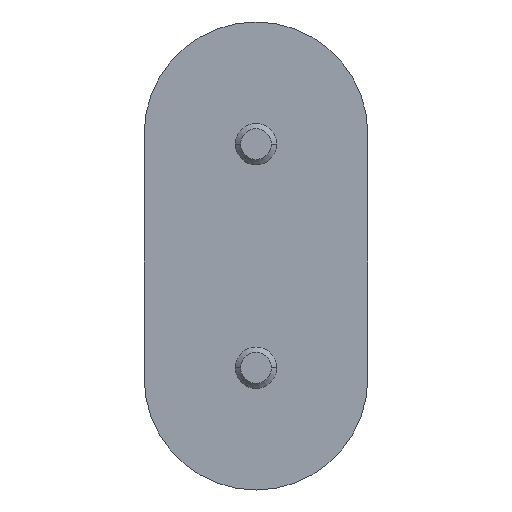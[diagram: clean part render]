
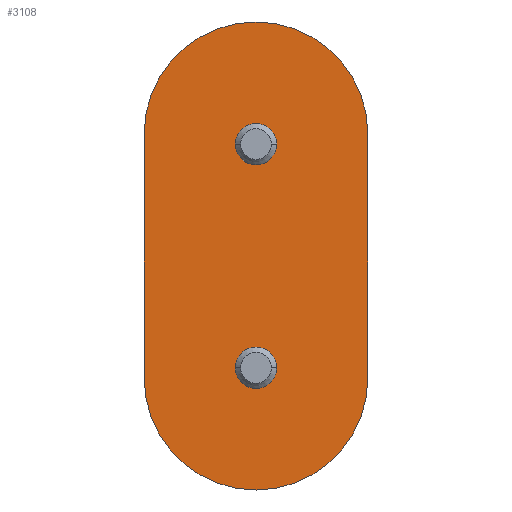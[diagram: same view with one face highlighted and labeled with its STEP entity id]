
A CAD part, top view. The second image highlights one B-rep face of the part: STEP entity #3108.
In plain terms, the highlighted planar face has unit normal (0, 0, 1).
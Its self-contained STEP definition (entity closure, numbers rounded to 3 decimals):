
#45 = VERTEX_POINT ( 'NONE', #1772 ) ;
#47 = VERTEX_POINT ( 'NONE', #1774 ) ;
#175 = VERTEX_POINT ( 'NONE', #2148 ) ;
#179 = VERTEX_POINT ( 'NONE', #2152 ) ;
#243 = CARTESIAN_POINT ( 'NONE',  ( 1.2, -6.5, 0. ) ) ;
#244 = CARTESIAN_POINT ( 'NONE',  ( -1.2, -6.5, 0. ) ) ;
#248 = CARTESIAN_POINT ( 'NONE',  ( -1.2, 6.5, 0. ) ) ;
#249 = CARTESIAN_POINT ( 'NONE',  ( 1.2, 6.5, 0. ) ) ;
#276 = ORIENTED_EDGE ( 'NONE', *, *, #3078, .T. ) ;
#277 = ORIENTED_EDGE ( 'NONE', *, *, #2564, .T. ) ;
#278 = ORIENTED_EDGE ( 'NONE', *, *, #2366, .F. ) ;
#280 = ORIENTED_EDGE ( 'NONE', *, *, #2526, .F. ) ;
#308 = ORIENTED_EDGE ( 'NONE', *, *, #2556, .F. ) ;
#309 = ORIENTED_EDGE ( 'NONE', *, *, #3076, .T. ) ;
#310 = ORIENTED_EDGE ( 'NONE', *, *, #2567, .T. ) ;
#311 = ORIENTED_EDGE ( 'NONE', *, *, #2527, .F. ) ;
#1110 = VERTEX_POINT ( 'NONE', #243 ) ;
#1111 = VERTEX_POINT ( 'NONE', #244 ) ;
#1115 = VERTEX_POINT ( 'NONE', #248 ) ;
#1116 = VERTEX_POINT ( 'NONE', #249 ) ;
#1423 = EDGE_LOOP ( 'NONE', ( #311, #308 ) ) ;
#1427 = EDGE_LOOP ( 'NONE', ( #280, #278 ) ) ;
#1433 = EDGE_LOOP ( 'NONE', ( #277, #276, #309, #310 ) ) ;
#1521 = CIRCLE ( 'NONE', #2384, 1.2 ) ;
#1609 = VECTOR ( 'NONE', #2737, 1000. ) ;
#1610 = LINE ( 'NONE', #2736, #1609 ) ;
#1614 = CIRCLE ( 'NONE', #2398, 6.5 ) ;
#1632 = CIRCLE ( 'NONE', #2395, 1.2 ) ;
#1678 = CIRCLE ( 'NONE', #2385, 1.2 ) ;
#1713 = CIRCLE ( 'NONE', #2382, 1.2 ) ;
#1772 = CARTESIAN_POINT ( 'NONE',  ( -6.5, 7.1, 0. ) ) ;
#1774 = CARTESIAN_POINT ( 'NONE',  ( 6.5, 7.1, 0. ) ) ;
#1962 = CARTESIAN_POINT ( 'NONE',  ( 0., -6.5, 0. ) ) ;
#1963 = DIRECTION ( 'NONE',  ( 0., 0., 1. ) ) ;
#1964 = DIRECTION ( 'NONE',  ( 1., 0., 0. ) ) ;
#1986 = CARTESIAN_POINT ( 'NONE',  ( 0., -6.5, 0. ) ) ;
#1987 = DIRECTION ( 'NONE',  ( 0., 0., 1. ) ) ;
#1988 = DIRECTION ( 'NONE',  ( 1., 0., 0. ) ) ;
#1989 = CARTESIAN_POINT ( 'NONE',  ( 0., 6.5, 0. ) ) ;
#1990 = DIRECTION ( 'NONE',  ( 0., 0., 1. ) ) ;
#1991 = DIRECTION ( 'NONE',  ( 1., 0., 0. ) ) ;
#2148 = CARTESIAN_POINT ( 'NONE',  ( 6.5, -7.1, 0. ) ) ;
#2152 = CARTESIAN_POINT ( 'NONE',  ( -6.5, -7.1, 0. ) ) ;
#2366 = EDGE_CURVE ( 'NONE', #1110, #1111, #1713, .T. ) ;
#2382 = AXIS2_PLACEMENT_3D ( 'NONE', #1962, #1963, #1964 ) ;
#2384 = AXIS2_PLACEMENT_3D ( 'NONE', #1986, #1987, #1988 ) ;
#2385 = AXIS2_PLACEMENT_3D ( 'NONE', #1989, #1990, #1991 ) ;
#2395 = AXIS2_PLACEMENT_3D ( 'NONE', #2710, #2711, #2712 ) ;
#2398 = AXIS2_PLACEMENT_3D ( 'NONE', #2729, #2730, #2731 ) ;
#2416 = AXIS2_PLACEMENT_3D ( 'NONE', #3167, #3168, #3169 ) ;
#2444 = AXIS2_PLACEMENT_3D ( 'NONE', #3273, #3274, #3275 ) ;
#2526 = EDGE_CURVE ( 'NONE', #1111, #1110, #1521, .T. ) ;
#2527 = EDGE_CURVE ( 'NONE', #1115, #1116, #1678, .T. ) ;
#2556 = EDGE_CURVE ( 'NONE', #1116, #1115, #1632, .T. ) ;
#2564 = EDGE_CURVE ( 'NONE', #47, #45, #1614, .T. ) ;
#2567 = EDGE_CURVE ( 'NONE', #175, #47, #1610, .T. ) ;
#2623 = FACE_OUTER_BOUND ( 'NONE', #1433, .T. ) ;
#2624 = FACE_BOUND ( 'NONE', #1427, .T. ) ;
#2633 = VECTOR ( 'NONE', #3173, 1000. ) ;
#2644 = FACE_BOUND ( 'NONE', #1423, .T. ) ;
#2688 = CIRCLE ( 'NONE', #2416, 6.5 ) ;
#2691 = LINE ( 'NONE', #3172, #2633 ) ;
#2710 = CARTESIAN_POINT ( 'NONE',  ( 0., 6.5, 0. ) ) ;
#2711 = DIRECTION ( 'NONE',  ( 0., 0., 1. ) ) ;
#2712 = DIRECTION ( 'NONE',  ( 1., 0., 0. ) ) ;
#2729 = CARTESIAN_POINT ( 'NONE',  ( 0., 7.1, 0. ) ) ;
#2730 = DIRECTION ( 'NONE',  ( 0., 0., 1. ) ) ;
#2731 = DIRECTION ( 'NONE',  ( 1., 0., 0. ) ) ;
#2736 = CARTESIAN_POINT ( 'NONE',  ( 6.5, -7.1, 0. ) ) ;
#2737 = DIRECTION ( 'NONE',  ( 0., 1., 0. ) ) ;
#3076 = EDGE_CURVE ( 'NONE', #179, #175, #2688, .T. ) ;
#3078 = EDGE_CURVE ( 'NONE', #45, #179, #2691, .T. ) ;
#3108 = ADVANCED_FACE ( 'NONE', ( #2624, #2623, #2644 ), #3272, .T. ) ;
#3167 = CARTESIAN_POINT ( 'NONE',  ( 0., -7.1, 0. ) ) ;
#3168 = DIRECTION ( 'NONE',  ( 0., 0., 1. ) ) ;
#3169 = DIRECTION ( 'NONE',  ( 1., 0., 0. ) ) ;
#3172 = CARTESIAN_POINT ( 'NONE',  ( -6.5, 7.1, 0. ) ) ;
#3173 = DIRECTION ( 'NONE',  ( 0., -1., 0. ) ) ;
#3272 = PLANE ( 'NONE',  #2444 ) ;
#3273 = CARTESIAN_POINT ( 'NONE',  ( 0., 7.1, 0. ) ) ;
#3274 = DIRECTION ( 'NONE',  ( 0., 0., 1. ) ) ;
#3275 = DIRECTION ( 'NONE',  ( 1., 0., 0. ) ) ;
